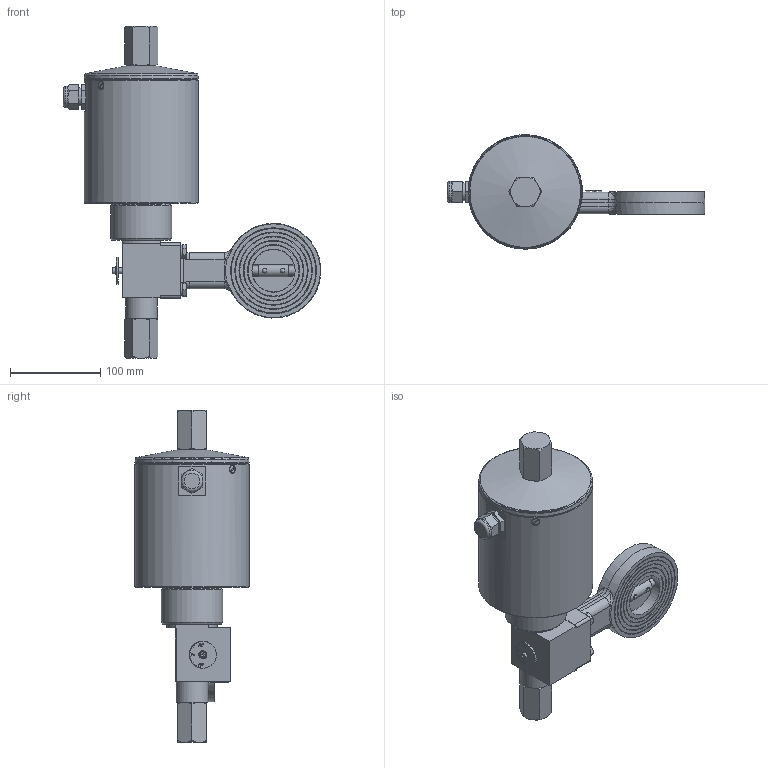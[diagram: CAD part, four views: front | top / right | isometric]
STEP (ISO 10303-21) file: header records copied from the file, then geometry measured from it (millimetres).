
FILE_DESCRIPTION((''),'2;1');
FILE_NAME('G:\CAD-Download\MRK\MRK Ro Ma\DN 50\MRK Ro Ma 20N-4.stp','2010-05-26T08:52:28',('da'),(''),'Autodesk Inventor 2008','Autodesk Inventor 2008','');
FILE_SCHEMA(('AUTOMOTIVE_DESIGN { 1 0 10303 214 1 1 1 1 }'));
Length unit declared in the file: millimetre
Products named in the file (1): MRK Ro Ma 20N-4
Bounding box: 286.17 x 127 x 368.88 mm (x, y, z)
Volume: 2600288 mm3; surface area: 177303.9 mm2
Topology: 1 solids, 1 shells, 601 faces, 1538 edges, 983 vertices
Faces by surface type: plane 373, bspline 80, cone 72, cylinder 64, torus 8, sphere 4
Full cylindrical faces by diameter (mm): 3 x2, 7 x2, 8 x4, 9 x1, 10 x1, 11.63 x4, 20 x1, 23.713 x1, 30 x1, 35 x1, 47.5 x1, 48 x1, 62 x1, 68 x1, 121.5 x1, 124 x2, 127 x1
Entity records: 21373 total; most frequent: CARTESIAN_POINT 7386, ORIENTED_EDGE 2872, DIRECTION 2516, EDGE_CURVE 1436, VERTEX_POINT 957, VECTOR 856, LINE 856, AXIS2_PLACEMENT_3D 830
